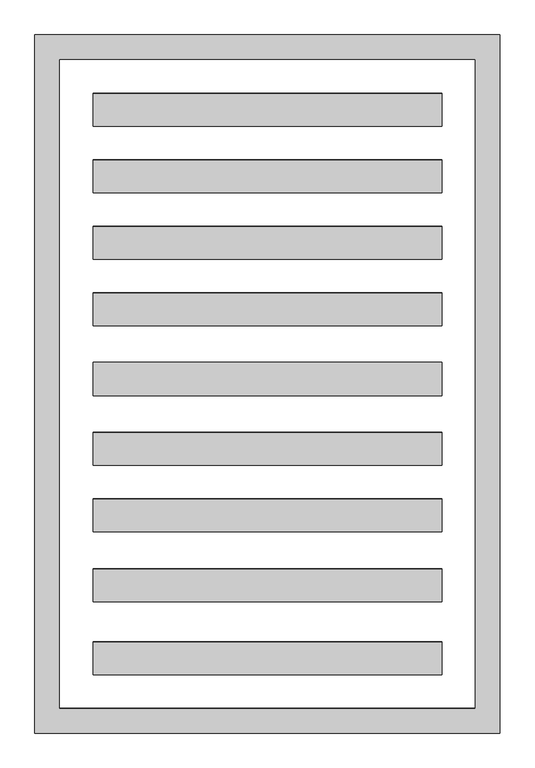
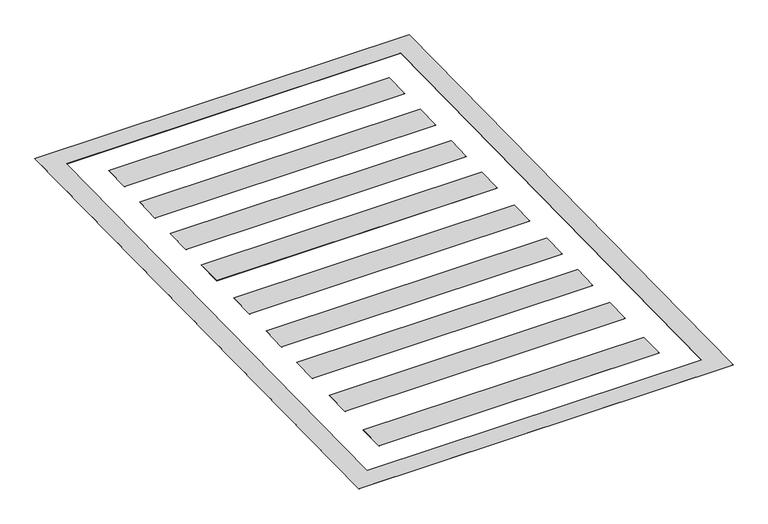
"""IFC4 building model written with IfcOpenShell, lengths in millimetres: proxy geometry, Modelos genéricos 1 : Modelos genéricos 1."""

from ifc_helpers import new_model, si_unit, frame, origin, place, context, project, spatial, polyline, outline, extrude, source, transform, mapped, element, save


def generic_models_5f3c3b85(model_context):
    return source(origin(), model_context, "Body", "SweptSolid", [
        extrude(outline(polyline([(0.0, 0.0), (0.0, -2800.0), (-4200.0, -2800.0), (-4200.0, 0.0), (0.0, 0.0)]), holes=[polyline([(-150.0, -150.0), (-4050.0, -150.0), (-4050.0, -2650.0), (-150.0, -2650.0), (-150.0, -150.0)])]), frame((-1261.5118355, -9857.715137, 26.019147), z_axis=(0.0, -0.015997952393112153, 0.9998720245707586), x_axis=(0.0, -0.9998720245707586, -0.015997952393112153)), (0.0, 0.0, 1.0), 1.0),
        extrude(outline(polyline([(-350.0, -350.0), (-350.0, -2450.0), (-550.0, -2450.0), (-550.0, -350.0), (-350.0, -350.0)])), frame((-1261.5118355, -9857.715137, 26.019147), z_axis=(0.0, -0.015997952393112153, 0.9998720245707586), x_axis=(0.0, -0.9998720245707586, -0.015997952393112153)), (0.0, 0.0, 1.0), 1.0),
        extrude(outline(polyline([(-3850.0, -350.0), (-3650.0, -350.0), (-3650.0, -2450.0), (-3850.0, -2450.0), (-3850.0, -350.0)])), frame((-1261.5118355, -9857.715137, 26.019147), z_axis=(0.0, -0.015997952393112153, 0.9998720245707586), x_axis=(0.0, -0.9998720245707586, -0.015997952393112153)), (0.0, 0.0, 1.0), 1.0),
        extrude(outline(polyline([(-3449.9999999, -350.0), (-3249.9999999, -350.0), (-3249.9999999, -2450.0), (-3449.9999999, -2450.0), (-3449.9999999, -350.0)])), frame((-1261.5118355, -9857.715137, 26.019147), z_axis=(0.0, -0.015997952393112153, 0.9998720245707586), x_axis=(0.0, -0.9998720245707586, -0.015997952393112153)), (0.0, 0.0, 1.0), 1.0),
        extrude(outline(polyline([(-3050.0, -350.0), (-2850.0, -350.0), (-2850.0, -2450.0), (-3050.0, -2450.0), (-3050.0, -350.0)])), frame((-1261.5118355, -9857.715137, 26.019147), z_axis=(0.0, -0.015997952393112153, 0.9998720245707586), x_axis=(0.0, -0.9998720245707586, -0.015997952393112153)), (0.0, 0.0, 1.0), 1.0),
        extrude(outline(polyline([(-2650.0, -350.0), (-2450.0, -350.0), (-2450.0, -2450.0), (-2650.0, -2450.0), (-2650.0, -350.0)])), frame((-1261.5118355, -9857.715137, 26.019147), z_axis=(0.0, -0.015997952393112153, 0.9998720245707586), x_axis=(0.0, -0.9998720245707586, -0.015997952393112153)), (0.0, 0.0, 1.0), 1.0),
        extrude(outline(polyline([(-2230.0, -350.0), (-2030.0, -350.0), (-2030.0, -2450.0), (-2230.0, -2450.0), (-2230.0, -350.0)])), frame((-1261.5118355, -9857.715137, 26.019147), z_axis=(0.0, -0.015997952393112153, 0.9998720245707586), x_axis=(0.0, -0.9998720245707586, -0.015997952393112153)), (0.0, 0.0, 1.0), 1.0),
        extrude(outline(polyline([(-1810.0, -350.0), (-1609.9999999, -350.0), (-1609.9999999, -2450.0), (-1810.0, -2450.0), (-1810.0, -350.0)])), frame((-1261.5118355, -9857.715137, 26.019147), z_axis=(0.0, -0.015997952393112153, 0.9998720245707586), x_axis=(0.0, -0.9998720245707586, -0.015997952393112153)), (0.0, 0.0, 1.0), 1.0),
        extrude(outline(polyline([(-1410.0, -350.0), (-1210.0, -350.0), (-1210.0, -2450.0), (-1410.0, -2450.0), (-1410.0, -350.0)])), frame((-1261.5118355, -9857.715137, 26.019147), z_axis=(0.0, -0.015997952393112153, 0.9998720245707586), x_axis=(0.0, -0.9998720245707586, -0.015997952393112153)), (0.0, 0.0, 1.0), 1.0),
        extrude(outline(polyline([(-990.0, -350.0), (-790.0, -350.0), (-790.0, -2450.0), (-990.0, -2450.0), (-990.0, -350.0)])), frame((-1261.5118355, -9857.715137, 26.019147), z_axis=(0.0, -0.015997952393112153, 0.9998720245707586), x_axis=(0.0, -0.9998720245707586, -0.015997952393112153)), (0.0, 0.0, 1.0), 1.0),
    ])


if __name__ == "__main__":
    model = new_model("IFC4")
    model_context = context("Model", 3, world=origin())
    ifc_project = project(units=[si_unit("LENGTHUNIT", "METRE", prefix="MILLI")], contexts=[model_context])
    site = spatial("IfcSite", under=ifc_project)
    building = spatial("IfcBuilding", under=site)
    placement = place(None, origin())
    generic_models_shape = generic_models_5f3c3b85(model_context)
    element("IfcBuildingElementProxy", 1, Name="Modelos genéricos 1 : Modelos genéricos 1", ObjectType="Modelos genéricos 1 : Modelos genéricos 1", at=placement, inside=building, context=model_context, shape_type="MappedRepresentation", body=[
        mapped(generic_models_shape, transform((0.0, 0.0, 0.0), x_axis=(1.0, 0.0, 0.0), y_axis=(0.0, 1.0, 0.0), z_axis=(0.0, 0.0, 1.0))),
    ])
    save(model, "model.ifc")
